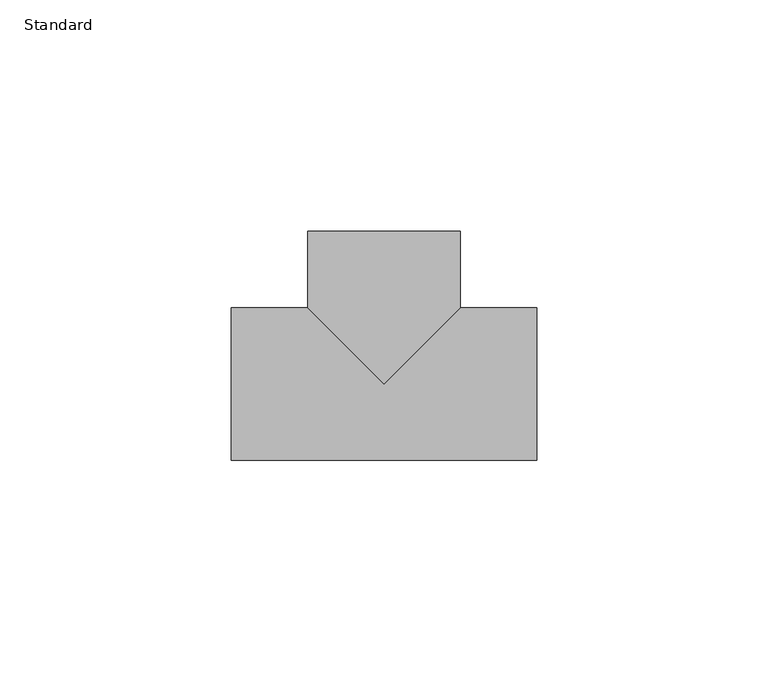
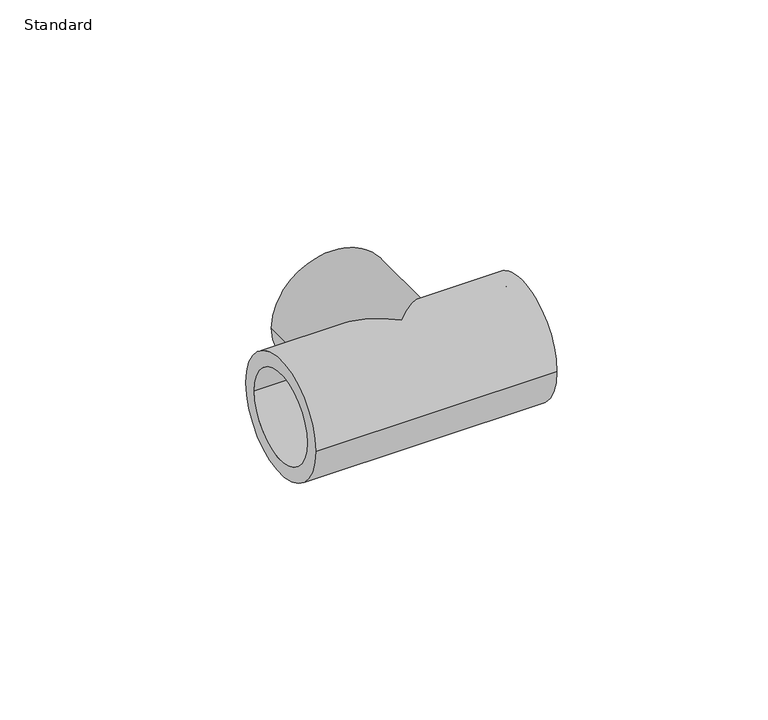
"""IFC4 building model written with IfcOpenShell, lengths in millimetres: pipe fitting geometry, Durapipe_PipeFitting_PVC_Tee90degEqual : Standard."""

from ifc_helpers import new_model, si_unit, frame, origin, place, context, project, spatial, polyline, circle_curve, ellipse_curve, source, transform, mapped, element, save
from ifc_brep_helpers import plane_surface, cylinder_surface, revolved_surface, advanced_brep


def standard_8bec462f(model_context):
    return source(origin(), model_context, "Body", "AdvancedBrep", [
        advanced_brep(
        [(-16.5, 33.0, 0.0), (16.5, 33.0, 0.0), (-12.5, 33.0, 0.0), (12.5, 33.0, 0.0), (-16.5, 16.5, 0.0), (0.0, 0.0, 16.5), (16.5, 16.5, 0.0), (0.0, 0.0, -16.5), (-33.0, -16.5, 0.0), (-33.0, 16.5, 0.0), (-33.0, -12.5, 0.0), (-33.0, 12.5, 0.0), (33.0, -16.5, 0.0), (33.0, 16.5, 0.0), (33.0, 12.5, 0.0), (33.0, -12.5, 0.0), (12.5, 14.0, 0.0), (-12.5, 14.0, 0.0), (0.0, 14.0, 0.0), (14.0, -12.5, 0.0), (14.0, 12.5, 0.0), (14.0, 0.0, 0.0), (-14.0, -12.5, 0.0), (-14.0, 12.5, 0.0), (-14.0, 0.0, 0.0)],
        [
            (0, 1, circle_curve(frame((0.0, 33.0, 0.0), z_axis=(0.0, 1.0, 0.0), x_axis=(1.0, 0.0, 0.0)), 16.5)),
            (1, 0, circle_curve(frame((0.0, 33.0, 0.0), z_axis=(0.0, 1.0, 0.0), x_axis=(1.0, 0.0, 0.0)), 16.5)),
            (2, 3, circle_curve(frame((0.0, 33.0, 0.0), z_axis=(0.0, -1.0, 0.0), x_axis=(-1.0, 0.0, 0.0)), 12.5)),
            (3, 2, circle_curve(frame((0.0, 33.0, 0.0), z_axis=(0.0, -1.0, 0.0), x_axis=(-1.0, 0.0, 0.0)), 12.5)),
            (0, 4),
            (4, 5, ellipse_curve(frame((0.0, 0.0, 0.0), z_axis=(0.7071067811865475, 0.7071067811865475, 0.0), x_axis=(-0.7071067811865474, 0.7071067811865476, 0.0)), 23.3345238, 16.5)),
            (5, 6, ellipse_curve(frame((0.0, 0.0, 0.0), z_axis=(-0.7071067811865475, 0.7071067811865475, 0.0), x_axis=(0.7071067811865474, 0.7071067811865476, 0.0)), 23.3345238, 16.5)),
            (6, 1),
            (6, 7, ellipse_curve(frame((0.0, 0.0, 0.0), z_axis=(-0.7071067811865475, 0.7071067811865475, 0.0), x_axis=(0.7071067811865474, 0.7071067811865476, 0.0)), 23.3345238, 16.5)),
            (7, 4, ellipse_curve(frame((0.0, 0.0, 0.0), z_axis=(0.7071067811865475, 0.7071067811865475, 0.0), x_axis=(-0.7071067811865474, 0.7071067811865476, 0.0)), 23.3345238, 16.5)),
            (8, 9, circle_curve(frame((-33.0, 0.0, 0.0), z_axis=(-1.0, 0.0, 0.0), x_axis=(0.0, 1.0, 0.0)), 16.5)),
            (9, 8, circle_curve(frame((-33.0, 0.0, 0.0), z_axis=(-1.0, 0.0, 0.0), x_axis=(0.0, 1.0, 0.0)), 16.5)),
            (10, 11, circle_curve(frame((-33.0, 0.0, 0.0), z_axis=(1.0, 0.0, 0.0), x_axis=(0.0, 1.0, 0.0)), 12.5)),
            (11, 10, circle_curve(frame((-33.0, 0.0, 0.0), z_axis=(1.0, 0.0, 0.0), x_axis=(0.0, 1.0, 0.0)), 12.5)),
            (12, 13, circle_curve(frame((33.0, 0.0, 0.0), z_axis=(1.0, 0.0, 0.0), x_axis=(0.0, 1.0, 0.0)), 16.5)),
            (13, 12, circle_curve(frame((33.0, 0.0, 0.0), z_axis=(1.0, 0.0, 0.0), x_axis=(0.0, 1.0, 0.0)), 16.5)),
            (14, 15, circle_curve(frame((33.0, 0.0, 0.0), z_axis=(-1.0, 0.0, 0.0), x_axis=(0.0, 1.0, 0.0)), 12.5)),
            (15, 14, circle_curve(frame((33.0, 0.0, 0.0), z_axis=(-1.0, 0.0, 0.0), x_axis=(0.0, 1.0, 0.0)), 12.5)),
            (8, 12),
            (13, 6),
            (4, 9),
            (16, 3),
            (2, 17),
            (17, 16, circle_curve(frame((0.0, 14.0, 0.0), z_axis=(0.0, -1.0, 0.0), x_axis=(-1.0, 0.0, 0.0)), 12.5)),
            (16, 17, circle_curve(frame((0.0, 14.0, 0.0), z_axis=(0.0, -1.0, 0.0), x_axis=(-1.0, 0.0, 0.0)), 12.5)),
            (17, 18),
            (18, 16),
            (19, 15),
            (14, 20),
            (20, 19, circle_curve(frame((14.0, 0.0, 0.0), z_axis=(-1.0, 0.0, 0.0), x_axis=(0.0, 1.0, 0.0)), 12.5)),
            (19, 20, circle_curve(frame((14.0, 0.0, 0.0), z_axis=(-1.0, 0.0, 0.0), x_axis=(0.0, 1.0, 0.0)), 12.5)),
            (20, 21),
            (21, 19),
            (10, 22),
            (22, 23, circle_curve(frame((-14.0, 0.0, 0.0), z_axis=(1.0, 0.0, 0.0), x_axis=(0.0, 1.0, 0.0)), 12.5)),
            (23, 11),
            (23, 22, circle_curve(frame((-14.0, 0.0, 0.0), z_axis=(1.0, 0.0, 0.0), x_axis=(0.0, 1.0, 0.0)), 12.5)),
            (22, 24),
            (24, 23),
        ],
        [
            plane_surface(frame((0.0, 33.0, 0.0), z_axis=(0.0, 1.0, 0.0), x_axis=(0.0, 0.0, 1.0))),
            cylinder_surface(frame((0.0, 33.0, 0.0), z_axis=(0.0, 1.0, 0.0), x_axis=(1.0, 0.0, 0.0)), 16.5),
            plane_surface(frame((-33.0, 0.0, 0.0), z_axis=(-1.0, 0.0, 0.0), x_axis=(0.0, 0.0, 1.0))),
            plane_surface(frame((33.0, 0.0, 0.0), z_axis=(1.0, 0.0, 0.0), x_axis=(0.0, 0.0, 1.0))),
            cylinder_surface(frame((-33.0, 0.0, 0.0), z_axis=(-1.0, 0.0, 0.0), x_axis=(0.0, 1.0, 0.0)), 16.5),
            revolved_surface(polyline([(-12.5, 14.0, 0.0), (-12.5, 33.0, 0.0)]), (0.0, 2008.0, 0.0), (0.0, -1.0, 0.0)),
            plane_surface(frame((0.0, 14.0, 0.0), z_axis=(0.0, 1.0, 0.0), x_axis=(-1.0, 0.0, 0.0))),
            revolved_surface(polyline([(14.0, 12.5, 0.0), (33.0, 12.5, 0.0)]), (2009.5, 0.0, 0.0), (-1.0, 0.0, 0.0)),
            plane_surface(frame((14.0, 0.0, 0.0), z_axis=(1.0, 0.0, 0.0), x_axis=(0.0, 1.0, 0.0))),
            revolved_surface(polyline([(-33.0, 12.5, 0.0), (-14.0, 12.5, 0.0)]), (2009.5, 0.0, 0.0), (-1.0, 0.0, 0.0)),
            plane_surface(frame((-14.0, 0.0, 0.0), z_axis=(-1.0, 0.0, 0.0), x_axis=(0.0, 1.0, 0.0))),
        ],
        [
            (0, [[1, 2], [3, 4]]),
            (1, [[-1, 5, 6, 7, 8]]),
            (1, [[-2, -8, 9, 10, -5]]),
            (2, [[11, 12], [13, 14]]),
            (3, [[15, 16], [17, 18]]),
            (4, [[-11, 19, -16, 20, -7, -6, 21]]),
            (4, [[-12, -21, -10, -9, -20, -15, -19]]),
            (5, [[22, -3, 23, 24]]),
            (5, [[-22, 25, -23, -4]]),
            (6, [[-24, 26, 27]]),
            (6, [[-25, -27, -26]]),
            (7, [[28, -17, 29, 30]]),
            (7, [[-28, 31, -29, -18]]),
            (8, [[-30, 32, 33]]),
            (8, [[-31, -33, -32]]),
            (9, [[34, 35, 36, -13]]),
            (9, [[-34, -14, -36, 37]]),
            (10, [[-35, 38, 39]]),
            (10, [[-37, -39, -38]]),
        ],
    ),
    ])


if __name__ == "__main__":
    model = new_model("IFC4")
    model_context = context("Model", 3, world=origin())
    ifc_project = project(units=[si_unit("LENGTHUNIT", "METRE", prefix="MILLI")], contexts=[model_context])
    site = spatial("IfcSite", under=ifc_project)
    building = spatial("IfcBuilding", under=site)
    placement = place(None, origin())
    standard_shape = standard_8bec462f(model_context)
    element("IfcPipeFitting", 1, ObjectType="Durapipe_PipeFitting_PVC_Tee90degEqual : Standard", at=placement, inside=building, context=model_context, shape_type="MappedRepresentation", body=[
        mapped(standard_shape, transform((0.0, 0.0, 0.0), x_axis=(1.0, 0.0, 0.0), y_axis=(0.0, 1.0, 0.0), z_axis=(0.0, 0.0, 1.0))),
    ])
    save(model, "model.ifc")
